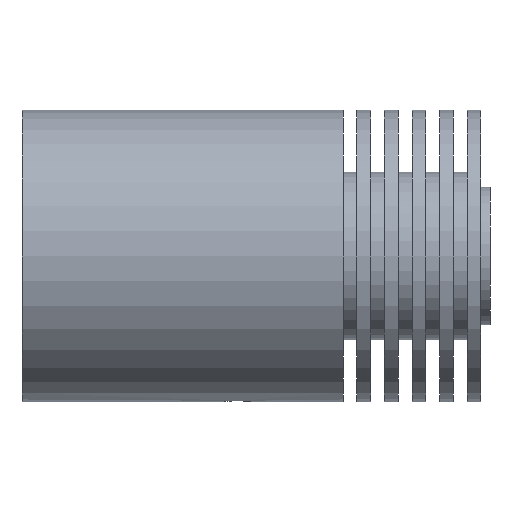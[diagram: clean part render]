
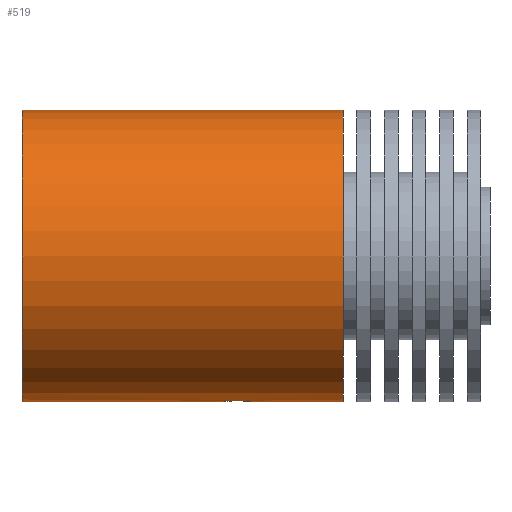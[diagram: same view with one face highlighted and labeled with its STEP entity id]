
A CAD part, front view. The second image highlights one B-rep face of the part: STEP entity #519.
In plain terms, the highlighted cylindrical face has radius 31.75 mm (diameter 63.5 mm), a full revolution.
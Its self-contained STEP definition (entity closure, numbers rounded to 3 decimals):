
#18=B_SPLINE_CURVE_WITH_KNOTS($,3,(#953,#954,#955,#956,#957,#958,#959,#960,
#961,#962,#963,#964,#965,#966,#967,#968,#969,#970,#971,#972,#973),
 .UNSPECIFIED.,.T.,.F.,(4,1,1,1,1,1,1,1,1,1,1,1,1,1,1,3,4),(0.,
0.072,0.145,0.217,0.289,
0.434,0.579,0.868,1.157,
1.447,1.591,1.736,1.808,1.881,
1.953,2.025,2.025),.UNSPECIFIED.);
#23=CYLINDRICAL_SURFACE($,#575,31.75);
#43=FACE_BOUND($,#192,.T.);
#44=FACE_BOUND($,#193,.T.);
#106=CIRCLE($,#576,31.75);
#107=CIRCLE($,#577,31.75);
#149=FACE_OUTER_BOUND($,#191,.T.);
#191=EDGE_LOOP($,(#415));
#192=EDGE_LOOP($,(#416));
#193=EDGE_LOOP($,(#417));
#295=VERTEX_POINT($,#948);
#297=VERTEX_POINT($,#999);
#298=VERTEX_POINT($,#1001);
#348=EDGE_CURVE($,#295,#295,#18,.T.);
#351=EDGE_CURVE($,#297,#297,#106,.T.);
#352=EDGE_CURVE($,#298,#298,#107,.T.);
#415=ORIENTED_EDGE($,*,*,#351,.T.);
#416=ORIENTED_EDGE($,*,*,#352,.F.);
#417=ORIENTED_EDGE($,*,*,#348,.F.);
#519=ADVANCED_FACE($,(#149,#43,#44),#23,.T.);
#575=AXIS2_PLACEMENT_3D($,#998,#690,#691);
#576=AXIS2_PLACEMENT_3D($,#1000,#692,#693);
#577=AXIS2_PLACEMENT_3D($,#1002,#694,#695);
#690=DIRECTION('center_axis',(1.,0.,0.));
#691=DIRECTION('ref_axis',(0.,1.,0.));
#692=DIRECTION('center_axis',(1.,0.,0.));
#693=DIRECTION('ref_axis',(0.,1.,0.));
#694=DIRECTION('center_axis',(1.,0.,0.));
#695=DIRECTION('ref_axis',(0.,1.,0.));
#948=CARTESIAN_POINT('',(20.962,5.13,-31.75));
#953=CARTESIAN_POINT('Ctrl Pts',(20.959,5.13,-31.75));
#954=CARTESIAN_POINT('Ctrl Pts',(20.959,4.965,-31.75));
#955=CARTESIAN_POINT('Ctrl Pts',(20.945,4.643,-31.748));
#956=CARTESIAN_POINT('Ctrl Pts',(20.776,3.937,-31.73));
#957=CARTESIAN_POINT('Ctrl Pts',(20.415,3.21,-31.695));
#958=CARTESIAN_POINT('Ctrl Pts',(19.645,2.339,-31.631));
#959=CARTESIAN_POINT('Ctrl Pts',(18.439,1.756,-31.572));
#960=CARTESIAN_POINT('Ctrl Pts',(16.459,1.756,-31.568));
#961=CARTESIAN_POINT('Ctrl Pts',(14.338,3.46,-31.756));
#962=CARTESIAN_POINT('Ctrl Pts',(14.345,6.795,-31.755));
#963=CARTESIAN_POINT('Ctrl Pts',(16.457,8.505,-31.567));
#964=CARTESIAN_POINT('Ctrl Pts',(18.44,8.503,-31.571));
#965=CARTESIAN_POINT('Ctrl Pts',(19.642,7.921,-31.63));
#966=CARTESIAN_POINT('Ctrl Pts',(20.414,7.05,-31.695));
#967=CARTESIAN_POINT('Ctrl Pts',(20.775,6.323,-31.73));
#968=CARTESIAN_POINT('Ctrl Pts',(20.944,5.617,-31.748));
#969=CARTESIAN_POINT('Ctrl Pts',(20.959,5.295,-31.75));
#970=CARTESIAN_POINT('Ctrl Pts',(20.959,5.13,-31.75));
#971=CARTESIAN_POINT('Ctrl Pts',(20.959,5.13,-31.75));
#972=CARTESIAN_POINT('Ctrl Pts',(20.959,5.13,-31.75));
#973=CARTESIAN_POINT('Ctrl Pts',(20.959,5.13,-31.75));
#998=CARTESIAN_POINT('Origin',(5.703,5.13,0.));
#999=CARTESIAN_POINT('',(-29.297,36.88,0.));
#1000=CARTESIAN_POINT('Origin',(-29.297,5.13,0.));
#1001=CARTESIAN_POINT('',(40.703,36.88,0.));
#1002=CARTESIAN_POINT('Origin',(40.703,5.13,0.));
